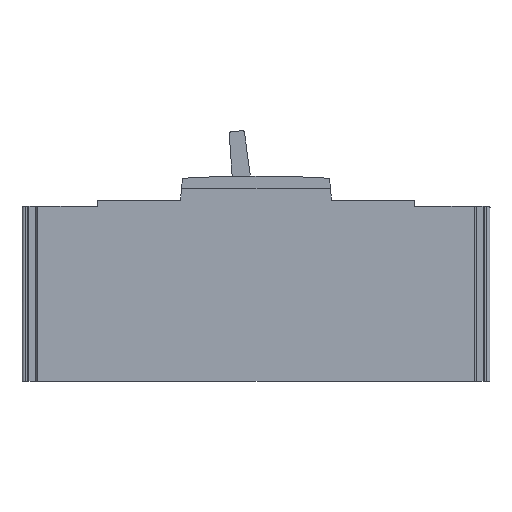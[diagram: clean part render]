
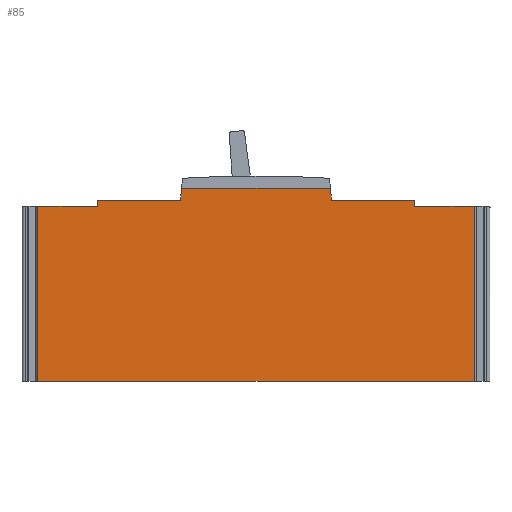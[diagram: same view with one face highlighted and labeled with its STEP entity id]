
A CAD part, left-side view. The second image highlights one B-rep face of the part: STEP entity #85.
In plain terms, the highlighted planar face has unit normal (-1, 0, 0).
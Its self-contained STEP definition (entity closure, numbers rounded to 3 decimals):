
#39 = CARTESIAN_POINT ( 'NONE',  ( -14.8, 52.5, 59.7 ) ) ;
#51 = CARTESIAN_POINT ( 'NONE',  ( -14.8, -52.2, 60. ) ) ;
#85 = ADVANCED_FACE ( 'NONE', ( #4351 ), #5944, .F. ) ;
#93 = VERTEX_POINT ( 'NONE', #4515 ) ;
#107 = EDGE_CURVE ( 'NONE', #5602, #4266, #4284, .T. ) ;
#144 = CARTESIAN_POINT ( 'NONE',  ( -14.8, -52.5, 58. ) ) ;
#195 = EDGE_CURVE ( 'NONE', #4468, #6236, #2950, .T. ) ;
#241 = DIRECTION ( 'NONE',  ( 1., 0., 0. ) ) ;
#378 = LINE ( 'NONE', #4513, #2425 ) ;
#400 = DIRECTION ( 'NONE',  ( 0., -1., 0. ) ) ;
#413 = CARTESIAN_POINT ( 'NONE',  ( -14.8, -24.69, 63.544 ) ) ;
#422 = DIRECTION ( 'NONE',  ( 0., 0., 1. ) ) ;
#527 = VECTOR ( 'NONE', #668, 1000. ) ;
#547 = VERTEX_POINT ( 'NONE', #413 ) ;
#582 = EDGE_CURVE ( 'NONE', #6236, #6284, #3421, .T. ) ;
#621 = DIRECTION ( 'NONE',  ( 1., 0., 0. ) ) ;
#668 = DIRECTION ( 'NONE',  ( 0., -0.087, 0.996 ) ) ;
#700 = LINE ( 'NONE', #3850, #1021 ) ;
#713 = CIRCLE ( 'NONE', #5664, 0.5 ) ;
#784 = ORIENTED_EDGE ( 'NONE', *, *, #1735, .F. ) ;
#798 = DIRECTION ( 'NONE',  ( 0., 0., -1. ) ) ;
#806 = VECTOR ( 'NONE', #422, 1000. ) ;
#899 = ORIENTED_EDGE ( 'NONE', *, *, #2347, .F. ) ;
#928 = AXIS2_PLACEMENT_3D ( 'NONE', #5094, #5589, #3599 ) ;
#930 = DIRECTION ( 'NONE',  ( 1., 0., 0. ) ) ;
#932 = DIRECTION ( 'NONE',  ( 0., -1., 0. ) ) ;
#943 = VECTOR ( 'NONE', #1152, 1000. ) ;
#946 = VECTOR ( 'NONE', #3418, 1000. ) ;
#1006 = CARTESIAN_POINT ( 'NONE',  ( -14.8, 52.5, 58. ) ) ;
#1015 = DIRECTION ( 'NONE',  ( 0., 0., 1. ) ) ;
#1021 = VECTOR ( 'NONE', #1769, 1000. ) ;
#1082 = ORIENTED_EDGE ( 'NONE', *, *, #3737, .F. ) ;
#1102 = DIRECTION ( 'NONE',  ( 0., 0., -1. ) ) ;
#1107 = ORIENTED_EDGE ( 'NONE', *, *, #4920, .F. ) ;
#1124 = EDGE_CURVE ( 'NONE', #1132, #4783, #3633, .T. ) ;
#1132 = VERTEX_POINT ( 'NONE', #4910 ) ;
#1150 = CARTESIAN_POINT ( 'NONE',  ( -14.8, 30.02, 2.626 ) ) ;
#1152 = DIRECTION ( 'NONE',  ( 0., 0., 1. ) ) ;
#1158 = VERTEX_POINT ( 'NONE', #4958 ) ;
#1169 = ORIENTED_EDGE ( 'NONE', *, *, #4154, .F. ) ;
#1234 = VERTEX_POINT ( 'NONE', #1006 ) ;
#1253 = VERTEX_POINT ( 'NONE', #51 ) ;
#1329 = CARTESIAN_POINT ( 'NONE',  ( -14.8, 0., 58. ) ) ;
#1427 = CARTESIAN_POINT ( 'NONE',  ( -14.8, 0., 60. ) ) ;
#1542 = AXIS2_PLACEMENT_3D ( 'NONE', #5828, #241, #798 ) ;
#1735 = EDGE_CURVE ( 'NONE', #5602, #2952, #378, .T. ) ;
#1769 = DIRECTION ( 'NONE',  ( 0., -1., 0. ) ) ;
#1827 = CARTESIAN_POINT ( 'NONE',  ( -14.8, -72.3, 58. ) ) ;
#2057 = ORIENTED_EDGE ( 'NONE', *, *, #5154, .F. ) ;
#2099 = VERTEX_POINT ( 'NONE', #3253 ) ;
#2132 = LINE ( 'NONE', #1427, #3392 ) ;
#2194 = CARTESIAN_POINT ( 'NONE',  ( -14.8, -72.3, 0. ) ) ;
#2263 = DIRECTION ( 'NONE',  ( 0., 0., -1. ) ) ;
#2334 = EDGE_LOOP ( 'NONE', ( #3233, #784, #4846, #4400, #1082, #4338, #6088, #1169, #899, #3366, #2415, #1107, #5966, #2358, #5759, #2057 ) ) ;
#2347 = EDGE_CURVE ( 'NONE', #4783, #547, #713, .T. ) ;
#2358 = ORIENTED_EDGE ( 'NONE', *, *, #195, .F. ) ;
#2404 = DIRECTION ( 'NONE',  ( 0., 1., 0. ) ) ;
#2415 = ORIENTED_EDGE ( 'NONE', *, *, #4654, .F. ) ;
#2425 = VECTOR ( 'NONE', #2404, 1000. ) ;
#2482 = CARTESIAN_POINT ( 'NONE',  ( -14.8, 0., 64. ) ) ;
#2826 = VERTEX_POINT ( 'NONE', #4004 ) ;
#2922 = LINE ( 'NONE', #4242, #943 ) ;
#2944 = DIRECTION ( 'NONE',  ( 0., 0., -1. ) ) ;
#2950 = CIRCLE ( 'NONE', #928, 0.3 ) ;
#2952 = VERTEX_POINT ( 'NONE', #3698 ) ;
#2968 = CARTESIAN_POINT ( 'NONE',  ( -14.8, -24.192, 64. ) ) ;
#2989 = CARTESIAN_POINT ( 'NONE',  ( -14.8, -72.3, 0. ) ) ;
#3005 = VECTOR ( 'NONE', #2263, 1000. ) ;
#3233 = ORIENTED_EDGE ( 'NONE', *, *, #4397, .F. ) ;
#3253 = CARTESIAN_POINT ( 'NONE',  ( -14.8, 24.69, 63.544 ) ) ;
#3305 = CARTESIAN_POINT ( 'NONE',  ( -14.8, -30.02, 2.626 ) ) ;
#3351 = CARTESIAN_POINT ( 'NONE',  ( -14.8, -52.5, 0. ) ) ;
#3353 = CARTESIAN_POINT ( 'NONE',  ( -14.8, 24.192, 63.5 ) ) ;
#3366 = ORIENTED_EDGE ( 'NONE', *, *, #1124, .F. ) ;
#3376 = LINE ( 'NONE', #1150, #527 ) ;
#3392 = VECTOR ( 'NONE', #932, 1000. ) ;
#3418 = DIRECTION ( 'NONE',  ( 0., -1., 0. ) ) ;
#3421 = LINE ( 'NONE', #4429, #4580 ) ;
#3599 = DIRECTION ( 'NONE',  ( 0., 0., -1. ) ) ;
#3617 = EDGE_CURVE ( 'NONE', #1234, #4468, #2922, .T. ) ;
#3633 = LINE ( 'NONE', #2482, #946 ) ;
#3669 = EDGE_CURVE ( 'NONE', #1253, #2826, #4794, .T. ) ;
#3698 = CARTESIAN_POINT ( 'NONE',  ( -14.8, 72.3, 0. ) ) ;
#3737 = EDGE_CURVE ( 'NONE', #2826, #5998, #4486, .T. ) ;
#3739 = EDGE_CURVE ( 'NONE', #5998, #4266, #700, .T. ) ;
#3850 = CARTESIAN_POINT ( 'NONE',  ( -14.8, 0., 58. ) ) ;
#3854 = AXIS2_PLACEMENT_3D ( 'NONE', #3353, #6300, #4347 ) ;
#3881 = EDGE_CURVE ( 'NONE', #1158, #1253, #2132, .T. ) ;
#4004 = CARTESIAN_POINT ( 'NONE',  ( -14.8, -52.5, 59.7 ) ) ;
#4009 = VECTOR ( 'NONE', #400, 1000. ) ;
#4026 = VECTOR ( 'NONE', #5340, 1000. ) ;
#4154 = EDGE_CURVE ( 'NONE', #547, #1158, #5648, .T. ) ;
#4157 = LINE ( 'NONE', #1329, #4009 ) ;
#4242 = CARTESIAN_POINT ( 'NONE',  ( -14.8, 52.5, 0. ) ) ;
#4266 = VERTEX_POINT ( 'NONE', #1827 ) ;
#4284 = LINE ( 'NONE', #2989, #806 ) ;
#4332 = CARTESIAN_POINT ( 'NONE',  ( -14.8, 25., 60. ) ) ;
#4338 = ORIENTED_EDGE ( 'NONE', *, *, #3669, .F. ) ;
#4347 = DIRECTION ( 'NONE',  ( 0., 0., -1. ) ) ;
#4351 = FACE_OUTER_BOUND ( 'NONE', #2334, .T. ) ;
#4397 = EDGE_CURVE ( 'NONE', #2952, #93, #4829, .T. ) ;
#4400 = ORIENTED_EDGE ( 'NONE', *, *, #3739, .F. ) ;
#4429 = CARTESIAN_POINT ( 'NONE',  ( -14.8, 0., 60. ) ) ;
#4468 = VERTEX_POINT ( 'NONE', #39 ) ;
#4474 = CARTESIAN_POINT ( 'NONE',  ( -14.8, -72.3, 0. ) ) ;
#4486 = LINE ( 'NONE', #3351, #3005 ) ;
#4513 = CARTESIAN_POINT ( 'NONE',  ( -14.8, -72.3, 0. ) ) ;
#4515 = CARTESIAN_POINT ( 'NONE',  ( -14.8, 72.3, 58. ) ) ;
#4580 = VECTOR ( 'NONE', #6377, 1000. ) ;
#4654 = EDGE_CURVE ( 'NONE', #2099, #1132, #4943, .T. ) ;
#4659 = CARTESIAN_POINT ( 'NONE',  ( -14.8, -24.192, 63.5 ) ) ;
#4663 = VECTOR ( 'NONE', #1015, 1000. ) ;
#4783 = VERTEX_POINT ( 'NONE', #2968 ) ;
#4794 = CIRCLE ( 'NONE', #1542, 0.3 ) ;
#4829 = LINE ( 'NONE', #6459, #4663 ) ;
#4846 = ORIENTED_EDGE ( 'NONE', *, *, #107, .T. ) ;
#4910 = CARTESIAN_POINT ( 'NONE',  ( -14.8, 24.192, 64. ) ) ;
#4920 = EDGE_CURVE ( 'NONE', #6284, #2099, #3376, .T. ) ;
#4943 = CIRCLE ( 'NONE', #3854, 0.5 ) ;
#4958 = CARTESIAN_POINT ( 'NONE',  ( -14.8, -25., 60. ) ) ;
#5094 = CARTESIAN_POINT ( 'NONE',  ( -14.8, 52.2, 59.7 ) ) ;
#5154 = EDGE_CURVE ( 'NONE', #93, #1234, #4157, .T. ) ;
#5340 = DIRECTION ( 'NONE',  ( 0., -0.087, -0.996 ) ) ;
#5589 = DIRECTION ( 'NONE',  ( 1., 0., 0. ) ) ;
#5602 = VERTEX_POINT ( 'NONE', #2194 ) ;
#5648 = LINE ( 'NONE', #3305, #4026 ) ;
#5664 = AXIS2_PLACEMENT_3D ( 'NONE', #4659, #621, #1102 ) ;
#5759 = ORIENTED_EDGE ( 'NONE', *, *, #3617, .F. ) ;
#5761 = AXIS2_PLACEMENT_3D ( 'NONE', #4474, #930, #2944 ) ;
#5828 = CARTESIAN_POINT ( 'NONE',  ( -14.8, -52.2, 59.7 ) ) ;
#5929 = CARTESIAN_POINT ( 'NONE',  ( -14.8, 52.2, 60. ) ) ;
#5944 = PLANE ( 'NONE',  #5761 ) ;
#5966 = ORIENTED_EDGE ( 'NONE', *, *, #582, .F. ) ;
#5998 = VERTEX_POINT ( 'NONE', #144 ) ;
#6088 = ORIENTED_EDGE ( 'NONE', *, *, #3881, .F. ) ;
#6236 = VERTEX_POINT ( 'NONE', #5929 ) ;
#6284 = VERTEX_POINT ( 'NONE', #4332 ) ;
#6300 = DIRECTION ( 'NONE',  ( 1., 0., 0. ) ) ;
#6377 = DIRECTION ( 'NONE',  ( 0., -1., 0. ) ) ;
#6459 = CARTESIAN_POINT ( 'NONE',  ( -14.8, 72.3, 0. ) ) ;
